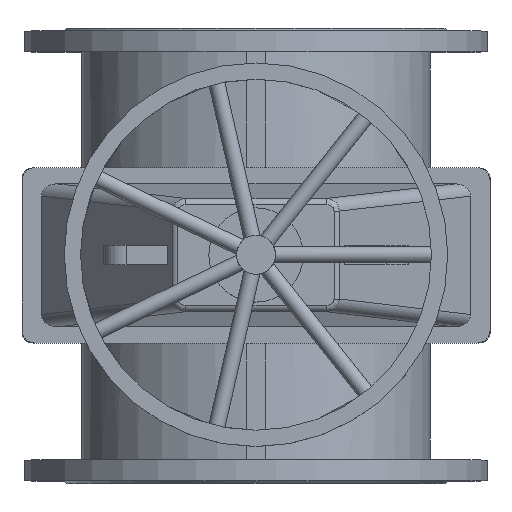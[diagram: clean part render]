
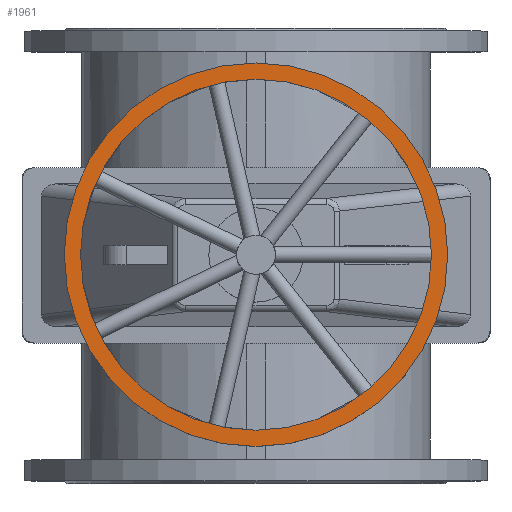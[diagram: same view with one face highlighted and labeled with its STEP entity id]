
A CAD part, top view. The second image highlights one B-rep face of the part: STEP entity #1961.
In plain terms, the highlighted planar face has unit normal (0, 0, 1).
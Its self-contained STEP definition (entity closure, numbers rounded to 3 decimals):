
#1961=ADVANCED_FACE('',(#4900,#4902),#4904,.T.);
#4900=FACE_BOUND('',#4901,.T.);
#4901=EDGE_LOOP('',(#5905));
#4902=FACE_BOUND('',#4903,.T.);
#4903=EDGE_LOOP('',(#5906));
#4904=PLANE('',#4905);
#4905=AXIS2_PLACEMENT_3D('',#4906,#4907,#4908);
#4906=CARTESIAN_POINT('',(0.,0.,1113.5));
#4907=DIRECTION('',(0.,0.,1.));
#4908=DIRECTION('',(0.,-1.,0.));
#5905=ORIENTED_EDGE('',*,*,#6401,.T.);
#5906=ORIENTED_EDGE('',*,*,#6399,.T.);
#6399=EDGE_CURVE('',#7239,#7239,#7240,.F.);
#6401=EDGE_CURVE('',#7243,#7243,#7244,.T.);
#7239=VERTEX_POINT('',#11328);
#7240=CIRCLE('',#11329,270.);
#7243=VERTEX_POINT('',#11338);
#7244=CIRCLE('',#11339,295.);
#11328=CARTESIAN_POINT('',(0.,-270.,1113.5));
#11329=AXIS2_PLACEMENT_3D('',#11330,#11331,#11332);
#11330=CARTESIAN_POINT('',(0.,0.,1113.5));
#11331=DIRECTION('',(0.,0.,1.));
#11332=DIRECTION('',(0.,-1.,0.));
#11338=CARTESIAN_POINT('',(0.,-295.,1113.5));
#11339=AXIS2_PLACEMENT_3D('',#11340,#11341,#11342);
#11340=CARTESIAN_POINT('',(0.,0.,1113.5));
#11341=DIRECTION('',(0.,0.,1.));
#11342=DIRECTION('',(0.,-1.,0.));
